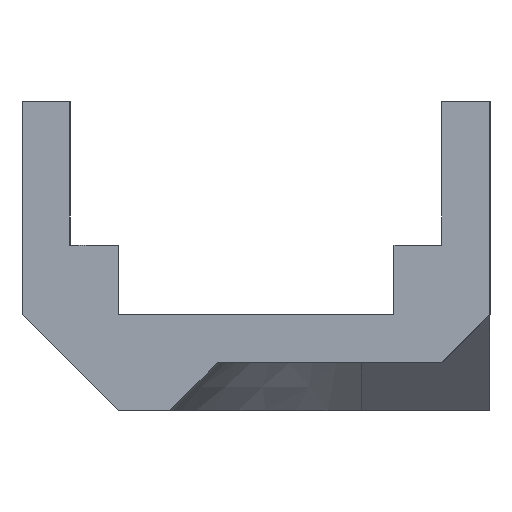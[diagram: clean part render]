
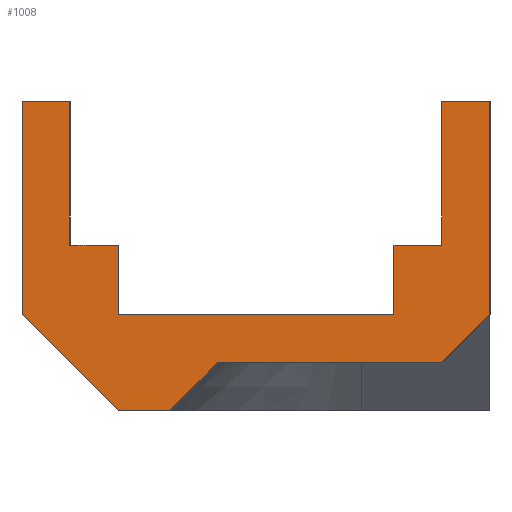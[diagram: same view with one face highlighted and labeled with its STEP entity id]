
A CAD part, left-side view. The second image highlights one B-rep face of the part: STEP entity #1008.
In plain terms, the highlighted planar face has unit normal (-1, 0, 0).
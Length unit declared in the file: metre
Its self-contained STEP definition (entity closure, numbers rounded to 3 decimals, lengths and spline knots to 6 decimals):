
#164=ORIENTED_EDGE('',*,*,#301,.F.);
#165=ORIENTED_EDGE('',*,*,#352,.F.);
#166=ORIENTED_EDGE('',*,*,#351,.F.);
#167=ORIENTED_EDGE('',*,*,#361,.T.);
#168=ORIENTED_EDGE('',*,*,#364,.T.);
#169=ORIENTED_EDGE('',*,*,#367,.F.);
#170=ORIENTED_EDGE('',*,*,#320,.T.);
#171=ORIENTED_EDGE('',*,*,#340,.F.);
#172=ORIENTED_EDGE('',*,*,#346,.T.);
#173=ORIENTED_EDGE('',*,*,#343,.F.);
#174=ORIENTED_EDGE('',*,*,#375,.T.);
#175=ORIENTED_EDGE('',*,*,#358,.T.);
#176=ORIENTED_EDGE('',*,*,#354,.F.);
#177=ORIENTED_EDGE('',*,*,#336,.F.);
#178=ORIENTED_EDGE('',*,*,#369,.F.);
#179=ORIENTED_EDGE('',*,*,#332,.F.);
#301=EDGE_CURVE('',#441,#443,#536,.T.);
#320=EDGE_CURVE('',#461,#462,#555,.T.);
#332=EDGE_CURVE('',#443,#473,#567,.T.);
#336=EDGE_CURVE('',#475,#477,#571,.T.);
#340=EDGE_CURVE('',#480,#462,#575,.T.);
#343=EDGE_CURVE('',#481,#483,#578,.T.);
#346=EDGE_CURVE('',#480,#483,#581,.T.);
#351=EDGE_CURVE('',#488,#485,#586,.T.);
#352=EDGE_CURVE('',#485,#441,#587,.T.);
#354=EDGE_CURVE('',#477,#489,#589,.T.);
#358=EDGE_CURVE('',#492,#489,#592,.T.);
#361=EDGE_CURVE('',#488,#494,#595,.T.);
#364=EDGE_CURVE('',#494,#496,#598,.T.);
#367=EDGE_CURVE('',#461,#496,#601,.T.);
#369=EDGE_CURVE('',#473,#475,#603,.T.);
#375=EDGE_CURVE('',#481,#492,#609,.T.);
#441=VERTEX_POINT('',#1371);
#443=VERTEX_POINT('',#1374);
#461=VERTEX_POINT('',#1412);
#462=VERTEX_POINT('',#1413);
#473=VERTEX_POINT('',#1437);
#475=VERTEX_POINT('',#1443);
#477=VERTEX_POINT('',#1446);
#480=VERTEX_POINT('',#1453);
#481=VERTEX_POINT('',#1458);
#483=VERTEX_POINT('',#1461);
#485=VERTEX_POINT('',#1470);
#488=VERTEX_POINT('',#1475);
#489=VERTEX_POINT('',#1482);
#492=VERTEX_POINT('',#1490);
#494=VERTEX_POINT('',#1496);
#496=VERTEX_POINT('',#1502);
#536=LINE('',#1373,#673);
#555=LINE('',#1411,#692);
#567=LINE('',#1436,#704);
#571=LINE('',#1445,#708);
#575=LINE('',#1454,#712);
#578=LINE('',#1460,#715);
#581=LINE('',#1466,#718);
#586=LINE('',#1476,#723);
#587=LINE('',#1478,#724);
#589=LINE('',#1481,#726);
#592=LINE('',#1489,#729);
#595=LINE('',#1495,#732);
#598=LINE('',#1501,#735);
#601=LINE('',#1507,#738);
#603=LINE('',#1510,#740);
#609=LINE('',#1521,#746);
#673=VECTOR('',#1116,1.);
#692=VECTOR('',#1137,1.);
#704=VECTOR('',#1151,1.);
#708=VECTOR('',#1157,1.);
#712=VECTOR('',#1163,1.);
#715=VECTOR('',#1168,1.);
#718=VECTOR('',#1173,1.);
#723=VECTOR('',#1180,1.);
#724=VECTOR('',#1183,1.);
#726=VECTOR('',#1187,1.);
#729=VECTOR('',#1194,1.);
#732=VECTOR('',#1199,1.);
#735=VECTOR('',#1204,1.);
#738=VECTOR('',#1209,1.);
#740=VECTOR('',#1213,1.);
#746=VECTOR('',#1221,1.);
#839=EDGE_LOOP('',(#164,#165,#166,#167,#168,#169,#170,#171,#172,#173,#174,
#175,#176,#177,#178,#179));
#900=FACE_BOUND('',#839,.T.);
#953=PLANE('',#1080);
#1008=ADVANCED_FACE('',(#900),#953,.T.);
#1080=AXIS2_PLACEMENT_3D('',#1556,#1258,#1259);
#1116=DIRECTION('',(0.,0.,1.));
#1137=DIRECTION('',(0.,0.,1.));
#1151=DIRECTION('',(0.,-1.,0.));
#1157=DIRECTION('',(0.,0.707,-0.707));
#1163=DIRECTION('',(0.,-1.,0.));
#1168=DIRECTION('',(0.,0.707,0.707));
#1173=DIRECTION('',(0.,0.,-1.));
#1180=DIRECTION('',(0.,0.,1.));
#1183=DIRECTION('',(0.,-1.,0.));
#1187=DIRECTION('',(0.,1.,0.));
#1194=DIRECTION('',(0.,-0.707,0.707));
#1199=DIRECTION('',(0.,1.,0.));
#1204=DIRECTION('',(0.,0.,1.));
#1209=DIRECTION('',(0.,-1.,0.));
#1213=DIRECTION('',(0.,0.,-1.));
#1221=DIRECTION('',(0.,-1.,0.));
#1258=DIRECTION('',(-1.,0.,0.));
#1259=DIRECTION('',(0.,0.,1.));
#1371=CARTESIAN_POINT('',(-0.087832,0.04865,-0.01585));
#1373=CARTESIAN_POINT('',(-0.087832,0.04865,-0.01575));
#1374=CARTESIAN_POINT('',(-0.087832,0.04865,-0.00985));
#1411=CARTESIAN_POINT('',(-0.087832,0.06415,-0.01575));
#1412=CARTESIAN_POINT('',(-0.087832,0.06415,-0.01585));
#1413=CARTESIAN_POINT('',(-0.087832,0.06415,-0.00985));
#1436=CARTESIAN_POINT('',(-0.087832,0.07165,-0.00985));
#1437=CARTESIAN_POINT('',(-0.087832,0.04665,-0.00985));
#1443=CARTESIAN_POINT('',(-0.087832,0.04665,-0.01875));
#1445=CARTESIAN_POINT('',(-0.087832,0.04865,-0.02075));
#1446=CARTESIAN_POINT('',(-0.087832,0.04865,-0.02075));
#1453=CARTESIAN_POINT('',(-0.087832,0.06615,-0.00985));
#1454=CARTESIAN_POINT('',(-0.087832,0.07165,-0.00985));
#1458=CARTESIAN_POINT('',(-0.087832,0.06215,-0.02275));
#1460=CARTESIAN_POINT('',(-0.087832,0.06615,-0.01875));
#1461=CARTESIAN_POINT('',(-0.087832,0.06615,-0.01875));
#1466=CARTESIAN_POINT('',(-0.087832,0.06615,0.00825));
#1470=CARTESIAN_POINT('',(-0.087832,0.05065,-0.01585));
#1475=CARTESIAN_POINT('',(-0.087832,0.05065,-0.01875));
#1476=CARTESIAN_POINT('',(-0.087832,0.05065,-0.01975));
#1478=CARTESIAN_POINT('',(-0.087832,-0.00615,-0.01585));
#1481=CARTESIAN_POINT('',(-0.087832,-0.006225,-0.02075));
#1482=CARTESIAN_POINT('',(-0.087832,0.05801,-0.02075));
#1489=CARTESIAN_POINT('',(-0.087832,0.06001,-0.02275));
#1490=CARTESIAN_POINT('',(-0.087832,0.06001,-0.02275));
#1495=CARTESIAN_POINT('',(-0.087832,-0.006225,-0.01875));
#1496=CARTESIAN_POINT('',(-0.087832,0.06215,-0.01875));
#1501=CARTESIAN_POINT('',(-0.087832,0.06215,-0.01975));
#1502=CARTESIAN_POINT('',(-0.087832,0.06215,-0.01585));
#1507=CARTESIAN_POINT('',(-0.087832,-0.00615,-0.01585));
#1510=CARTESIAN_POINT('',(-0.087832,0.04665,-0.016325));
#1521=CARTESIAN_POINT('',(-0.087832,0.07165,-0.02275));
#1556=CARTESIAN_POINT('',(-0.087832,0.07165,-0.016325));
